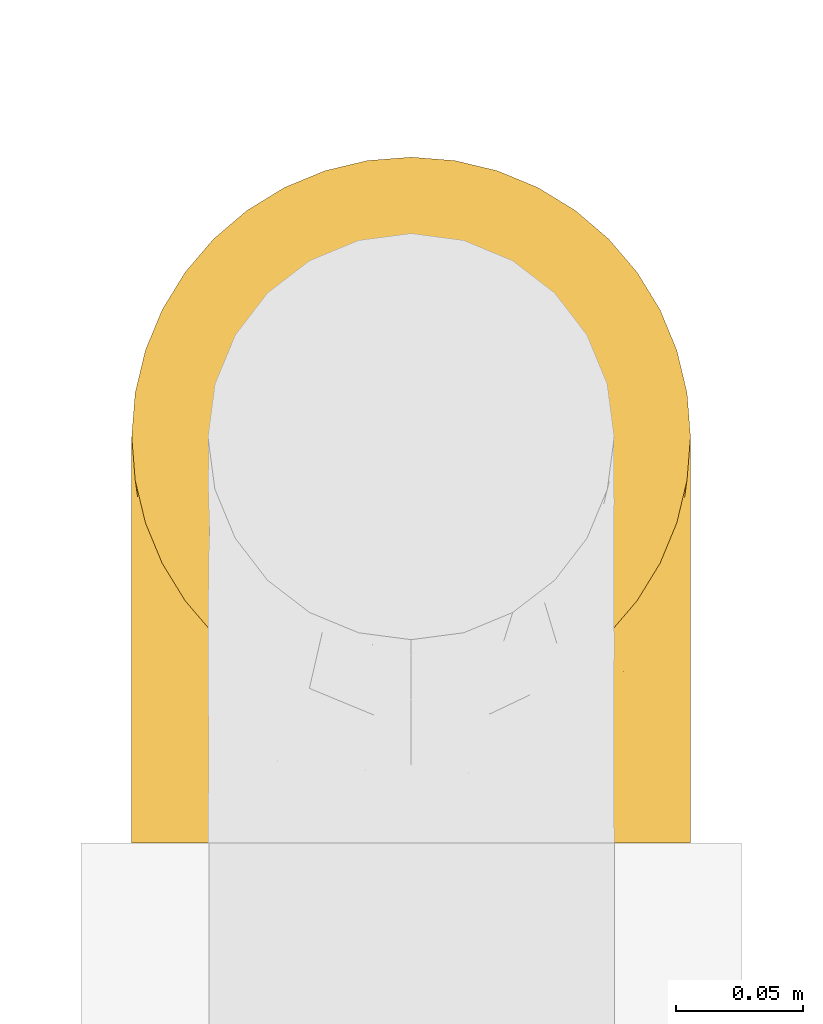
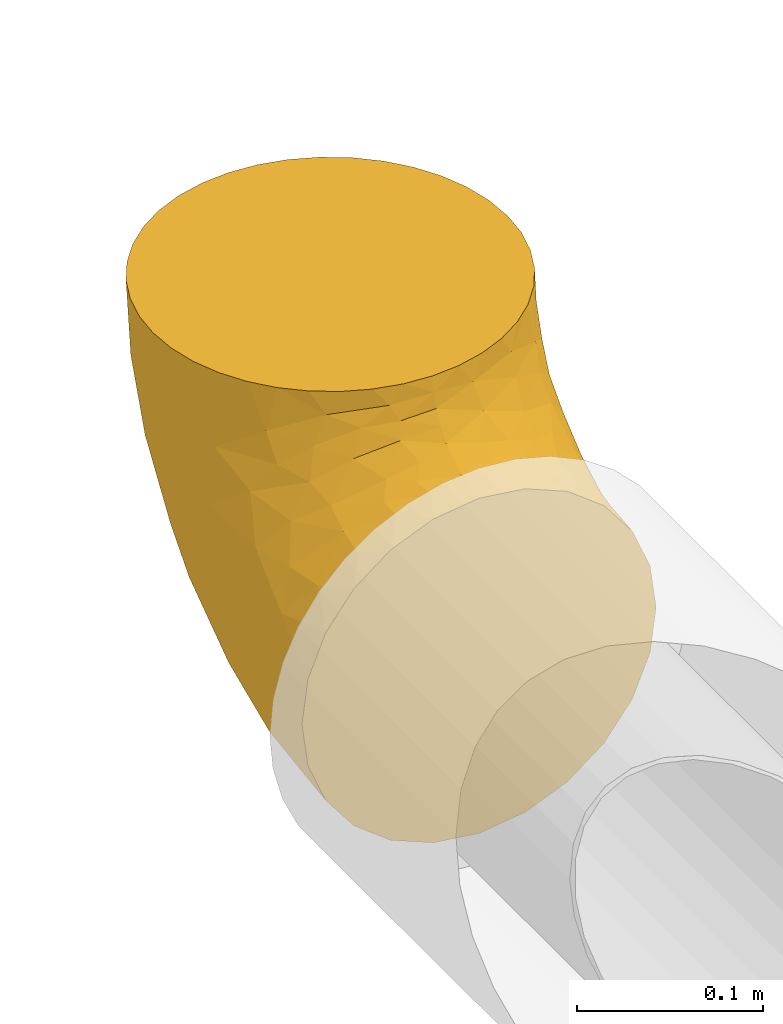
# One storey, part 6 of 14: 1 covering.
"""IFC2X3 building model written with IfcOpenShell, lengths in millimetres."""

import ifcopenshell
import ifcopenshell.guid

model = None  # the IFC model being written
_history = None  # IfcOwnerHistory: only IFC2X3 demands one
_inside = {}  # id of a spatial element -> (the spatial element, [elements in it])
_under = {}  # id of a project, library or spatial element -> (it, [spatial elements below it])
_declared = {}  # id of a project -> (the project, [libraries it declares])
_typed = {}  # id of a type object -> (the type object, [elements of that type])
_made_of = {}  # id of a material, layer set ... -> (it, [elements and type objects made of it])


def new_model(schema):
    """Start an empty IFC model of exactly this schema.

    Asked for "IFC4X3", IfcOpenShell would pick the latest addendum, in which some entities
    have other attributes; the version numbers below select the first issue.
    IFC2X3 requires an IfcOwnerHistory on every rooted entity: one is made here for all.
    """
    global model, _history
    if schema == "IFC4X3":
        model = ifcopenshell.file(schema_version=(4, 3, 0, 0))
    else:
        model = ifcopenshell.file(schema=schema)
    _inside.clear()
    _under.clear()
    _declared.clear()
    _typed.clear()
    _made_of.clear()
    _history = None
    if model.schema == "IFC2X3":
        org = make("IfcOrganization", Name="unknown")
        user = make(
            "IfcPersonAndOrganization",
            ThePerson=make("IfcPerson", FamilyName="unknown"),
            TheOrganization=org,
        )
        app = make(
            "IfcApplication",
            ApplicationDeveloper=org,
            Version="unknown",
            ApplicationFullName="unknown",
            ApplicationIdentifier="unknown",
        )
        _history = make(
            "IfcOwnerHistory",
            OwningUser=user,
            OwningApplication=app,
            ChangeAction="ADDED",
            CreationDate=0,
        )
    return model


def make(cls, **values):
    """One entity of the class cls with the attributes given. An attribute that is None is left unset."""
    return model.create_entity(
        cls, **{name: value for name, value in values.items() if value is not None}
    )


def entity(cls, *values):
    """Any entity or typed value of the class cls, its attributes in the order of the schema. None: left unset."""
    e = model.create_entity(cls)
    for i, value in enumerate(values):
        if value is not None:
            e[i] = value
    return e


def rooted(cls, **values):
    """An entity with a GlobalId (a new one), such as an element, a storey or a relation."""
    return make(cls, GlobalId=ifcopenshell.guid.new(), OwnerHistory=_history, **values)


def si_unit(unit_type, name, prefix=None):
    """IfcSIUnit, for example si_unit("LENGTHUNIT", "METRE", prefix="MILLI")."""
    return make("IfcSIUnit", UnitType=unit_type, Prefix=prefix, Name=name)


def converted_unit(unit_type, name, factor, base, dimensions=None, offset=None):
    """IfcConversionBasedUnit, such as the inch: factor (a typed value) times the base unit."""
    return make(
        "IfcConversionBasedUnit"
        if offset is None
        else "IfcConversionBasedUnitWithOffset",
        ConversionOffset=offset,
        Dimensions=None
        if dimensions is None
        else entity("IfcDimensionalExponents", *dimensions),
        UnitType=unit_type,
        Name=name,
        ConversionFactor=make(
            "IfcMeasureWithUnit", ValueComponent=factor, UnitComponent=base
        ),
    )


def derived_unit(unit_type, elements):
    """IfcDerivedUnit: a product of units, each with its exponent."""
    return make(
        "IfcDerivedUnit",
        Elements=[
            make("IfcDerivedUnitElement", Unit=unit, Exponent=power)
            for unit, power in elements
        ],
        UnitType=unit_type,
    )


def assignment(units):
    """IfcUnitAssignment: the units of a project."""
    return None if units is None else make("IfcUnitAssignment", Units=units)


def point(xyz):
    """IfcCartesianPoint."""
    return None if xyz is None else make("IfcCartesianPoint", Coordinates=xyz)


def direction(xyz):
    """IfcDirection."""
    return None if xyz is None else make("IfcDirection", DirectionRatios=xyz)


def frame(location, z_axis=None, x_axis=None):
    """IfcAxis2Placement3D, a coordinate frame: its origin and axes. An axis left out is left unset."""
    return make(
        "IfcAxis2Placement3D",
        Location=point(location),
        Axis=direction(z_axis),
        RefDirection=direction(x_axis),
    )


def origin_with_axes():
    """The frame at (0, 0, 0) with the z axis (0, 0, 1) and the x axis (1, 0, 0) written out."""
    return frame((0.0, 0.0, 0.0), z_axis=(0.0, 0.0, 1.0), x_axis=(1.0, 0.0, 0.0))


def place(relative_to, where):
    """IfcLocalPlacement: puts the frame where relative to a parent placement (None: the world)."""
    return make(
        "IfcLocalPlacement", PlacementRelTo=relative_to, RelativePlacement=where
    )


def context(
    kind, dimensions, precision=None, world=None, true_north=None, identifier=None
):
    """IfcGeometricRepresentationContext, for example the 3D "Model" context."""
    return make(
        "IfcGeometricRepresentationContext",
        ContextIdentifier=identifier,
        ContextType=kind,
        CoordinateSpaceDimension=dimensions,
        Precision=precision,
        WorldCoordinateSystem=world,
        TrueNorth=true_north,
    )


def subcontext(parent, identifier, kind, view, scale=None):
    """IfcGeometricRepresentationSubContext, for example "Body" below "Model"."""
    return make(
        "IfcGeometricRepresentationSubContext",
        ContextIdentifier=identifier,
        ContextType=kind,
        ParentContext=parent,
        TargetScale=scale,
        TargetView=view,
    )


def project(units=None, contexts=None):
    """IfcProject with its units and contexts."""
    return rooted(
        "IfcProject",
        Name="project",
        RepresentationContexts=contexts,
        UnitsInContext=assignment(units),
    )


def spatial(cls, under=None, at=None, **own):
    """A site, building, storey or space (cls), placed at a placement, below another one or the project."""
    s = rooted(cls, ObjectPlacement=at, **own)
    if under is not None:
        _under.setdefault(under.id(), (under, []))[1].append(s)
    return s


def faces_of(points, faces, orient=None, outer=None):
    """IfcFace entities. A face is a list of loops; a loop is a list of indices into points, from 0.

    orient and outer hold one flag for each loop. By default every Orientation is true, the
    first loop of a face is its IfcFaceOuterBound and the others are IfcFaceBound.
    """
    made = []
    for i, loops in enumerate(faces):
        bounds = []
        for j, loop in enumerate(loops):
            is_outer = j == 0 if outer is None else outer[i][j]
            bounds.append(
                make(
                    "IfcFaceOuterBound" if is_outer else "IfcFaceBound",
                    Bound=make("IfcPolyLoop", Polygon=[points[k] for k in loop]),
                    Orientation=True if orient is None else orient[i][j],
                )
            )
        made.append(make("IfcFace", Bounds=bounds))
    return made


def open_shell(faces, orient=None, outer=None):
    """The faces of one IfcOpenShell. surface_model builds it on its shared points."""
    return ("IfcOpenShell", faces, orient, outer)


def surface_model(cls, points, shells):
    """IfcFaceBasedSurfaceModel or IfcShellBasedSurfaceModel (cls): surfaces that need not close."""
    shared = [point(p) for p in points]
    made = [make(c, CfsFaces=faces_of(shared, fs, o, b)) for c, fs, o, b in shells]
    if cls == "IfcFaceBasedSurfaceModel":
        return make(cls, FbsmFaces=made)
    return make(cls, SbsmBoundary=made)


def shape(context_of_items, identifier, shape_type, items):
    """IfcShapeRepresentation: the items that make up one representation, for example the "Body"."""
    return make(
        "IfcShapeRepresentation",
        ContextOfItems=context_of_items,
        RepresentationIdentifier=identifier,
        RepresentationType=shape_type,
        Items=items,
    )


def source(mapping_origin, context_of_items, identifier, shape_type, items):
    """IfcRepresentationMap: a shape defined once, which mapped items show again and again."""
    return make(
        "IfcRepresentationMap",
        MappingOrigin=mapping_origin,
        MappedRepresentation=shape(context_of_items, identifier, shape_type, items),
    )


def transform(
    local_origin,
    x_axis=None,
    y_axis=None,
    z_axis=None,
    scale=None,
    scale2=None,
    scale3=None,
    uniform=True,
):
    """IfcCartesianTransformationOperator3D, or its non-uniform kind. x_axis, y_axis, z_axis: its Axis1, 2, 3."""
    if uniform:
        return make(
            "IfcCartesianTransformationOperator3D",
            Axis1=direction(x_axis),
            Axis2=direction(y_axis),
            LocalOrigin=point(local_origin),
            Scale=scale,
            Axis3=direction(z_axis),
        )
    return make(
        "IfcCartesianTransformationOperator3DnonUniform",
        Axis1=direction(x_axis),
        Axis2=direction(y_axis),
        LocalOrigin=point(local_origin),
        Scale=scale,
        Axis3=direction(z_axis),
        Scale2=scale2,
        Scale3=scale3,
    )


def mapped(mapping_source, mapping_target):
    """IfcMappedItem: shows the shape of a source again, moved by a transform."""
    return make(
        "IfcMappedItem", MappingSource=mapping_source, MappingTarget=mapping_target
    )


def made_of(thing, what):
    """Note that an element or type object is made of a material, layer set ...; save() writes the relation."""
    if what is not None:
        _made_of.setdefault(what.id(), (what, []))[1].append(thing)
    return thing


def element(
    cls,
    number,
    at=None,
    inside=None,
    cuts=None,
    type_object=None,
    material=None,
    context=None,
    identifier="Body",
    shape_type=None,
    held_by="IfcProductDefinitionShape",
    body=None,
    shapes=None,
    **own,
):
    """One element of the class cls, such as IfcWall. Its Tag is "e" and its number.

    at: its placement. inside: the storey or other place that contains it. cuts: it is an
    opening in that element (IfcRelVoidsElement). A single representation is given by context,
    identifier, shape_type and body (its items); several are given by shapes. held_by: the class
    of the entity that holds the representations. save() writes the other relations.
    """
    e = rooted(cls, Tag="e%d" % number, ObjectPlacement=at, **own)
    if body is not None:
        shapes = [shape(context, identifier, shape_type, body)]
    if shapes is not None:
        e.Representation = make(held_by, Representations=shapes)
    if inside is not None:
        _inside.setdefault(inside.id(), (inside, []))[1].append(e)
    if cuts is not None:
        rooted(
            "IfcRelVoidsElement", RelatingBuildingElement=cuts, RelatedOpeningElement=e
        )
    if type_object is not None:
        _typed.setdefault(type_object.id(), (type_object, []))[1].append(e)
    return made_of(e, material)


def aggregate(whole, parts):
    """IfcRelAggregates: a whole, such as a stair, and the parts it consists of."""
    return rooted("IfcRelAggregates", RelatingObject=whole, RelatedObjects=parts)


def save(model, path):
    """Write the relations noted so far, then the file.

    IfcRelAggregates (storeys below a building ...), IfcRelContainedInSpatialStructure (elements
    in a storey), IfcRelDefinesByType, IfcRelAssociatesMaterial and IfcRelDeclares: one each for
    every whole, place, type object, material and project.
    """
    for whole, parts in _under.values():
        aggregate(whole, parts)
    for where, things in _inside.values():
        rooted(
            "IfcRelContainedInSpatialStructure",
            RelatedElements=things,
            RelatingStructure=where,
        )
    for kind, things in _typed.values():
        rooted("IfcRelDefinesByType", RelatedObjects=things, RelatingType=kind)
    for what, things in _made_of.values():
        rooted("IfcRelAssociatesMaterial", RelatedObjects=things, RelatingMaterial=what)
    for by, libraries in _declared.values():
        rooted("IfcRelDeclares", RelatingContext=by, RelatedDefinitions=libraries)
    model.write(path)


model = new_model("IFC2X3")

# Units and contexts
model_context = context("Model", 3, precision=0.01, world=frame((0.0, 4.29681676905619e-09, 0.0)), true_north=direction((4.01073788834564e-13, 1.0)))
plan_context = context("Plan", 3, precision=0.01, world=frame((0.0, 4.29681676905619e-09, 0.0)), true_north=direction((4.01073788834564e-13, 1.0)))
body_context = subcontext(model_context, "Body", "Model", "MODEL_VIEW")
ifc_project = project(units=[converted_unit("PLANEANGLEUNIT", "DEGREE", entity("IfcPositiveLengthMeasure", 0.0174532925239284), si_unit("PLANEANGLEUNIT", "RADIAN"), dimensions=[0, 0, 0, 0, 0, 0, 0]), si_unit("AREAUNIT", "SQUARE_METRE"), si_unit("LENGTHUNIT", "METRE", prefix="MILLI"), si_unit("MASSUNIT", "GRAM", prefix="KILO"), si_unit("POWERUNIT", "WATT"), si_unit("PRESSUREUNIT", "PASCAL", prefix="KILO"), si_unit("FORCEUNIT", "NEWTON", prefix="KILO"), si_unit("ELECTRICVOLTAGEUNIT", "VOLT"), si_unit("ELECTRICCURRENTUNIT", "AMPERE"), si_unit("THERMODYNAMICTEMPERATUREUNIT", "DEGREE_CELSIUS"), si_unit("TIMEUNIT", "SECOND"), si_unit("VOLUMEUNIT", "CUBIC_METRE"), derived_unit("LINEARVELOCITYUNIT", [(si_unit("LENGTHUNIT", "METRE"), 1), (si_unit("TIMEUNIT", "SECOND"), -1)]), derived_unit("VOLUMETRICFLOWRATEUNIT", [(si_unit("VOLUMEUNIT", "CUBIC_METRE"), 1), (si_unit("TIMEUNIT", "SECOND"), -1)]), derived_unit("THERMALTRANSMITTANCEUNIT", [(si_unit("POWERUNIT", "WATT"), 1), (si_unit("THERMODYNAMICTEMPERATUREUNIT", "KELVIN"), -1), (si_unit("AREAUNIT", "SQUARE_METRE"), -1)]), derived_unit("SOUNDPRESSUREUNIT", [(si_unit("PRESSUREUNIT", "PASCAL"), 1)])], contexts=[model_context, plan_context])

# Site, building, storey
site_placement = place(None, frame((0.0, -4.29681676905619e-09, 0.0), z_axis=(0.0, 0.0, 1.0), x_axis=(1.0, 0.0, 0.0)))
site = spatial("IfcSite", under=ifc_project, at=site_placement, CompositionType="ELEMENT")
building_placement = place(site_placement, frame((0.0, 4.29681676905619e-09, 0.0), z_axis=(0.0, 0.0, 1.0), x_axis=(1.0, 0.0, 0.0)))
building = spatial("IfcBuilding", under=site, at=building_placement, Name="mc-building", CompositionType="ELEMENT")
storey_placement = place(building_placement, frame((0.0, 0.0, 205200.0), z_axis=(0.0, 0.0, 1.0), x_axis=(1.0, 0.0, 0.0)))
storey = spatial("IfcBuildingStorey", under=building, at=storey_placement, Name="Nivå D + 1,2 m", CompositionType="ELEMENT", Elevation=205200.0)

# Covering
shared_shape = source(origin_with_axes(), body_context, "Body", "SurfaceModel", [
    surface_model("IfcShellBasedSurfaceModel", [(-33.9894, 160.0, 104.61702), (0.0, 160.0, 110.0), (49.94426, 160.0, 98.00802), (17.21089, 160.0, 108.64523), (33.99667, 160.0, 104.61465), (64.66127, 160.0, 88.98832), (88.99461, 160.0, 64.6526), (104.61702, 160.0, 33.9894), (98.01236, 160.0, 49.93573), (77.78567, 160.0, 77.77782), (-98.01236, 160.0, -49.93573), (-104.61465, 160.0, 33.99667), (-64.6526, 160.0, 88.99461), (-49.93573, 160.0, 98.01236), (-77.77782, 160.0, 77.78567), (-88.98832, 160.0, 64.66127), (-17.206, 160.0, 108.646), (-98.00802, 160.0, 49.94426), (-108.64523, 160.0, 17.21089), (-110.0, 160.0, 0.0), (108.646, 160.0, 17.206), (110.0, 160.0, 0.0), (108.64523, 160.0, -17.21089), (104.61465, 160.0, -33.99667), (98.00802, 160.0, -49.94426), (88.98832, 160.0, -64.66127), (0.0, 160.0, -110.0), (64.6526, 160.0, -88.99461), (49.93573, 160.0, -98.01236), (33.9894, 160.0, -104.61702), (17.206, 160.0, -108.646), (77.77782, 160.0, -77.78567), (-77.78567, 160.0, -77.77782), (-88.99461, 160.0, -64.6526), (-108.646, 160.0, -17.206), (-104.61702, 160.0, -33.9894), (-17.21089, 160.0, -108.64523), (-49.94426, 160.0, -98.00802), (-64.66127, 160.0, -88.98832), (-33.99667, 160.0, -104.61465), (-160.0, 110.0, 0.0), (-160.0, 106.25184, -28.47009), (-160.0, 95.26279, -55.0), (-160.0, 77.78174, -77.78174), (-160.0, 55.0, -95.26279), (-160.0, 77.78174, 77.78174), (-160.0, 28.47009, -106.25184), (-160.0, 95.26279, 55.0), (-160.0, 106.25184, 28.47009), (-160.0, 28.47009, 106.25184), (-160.0, 55.0, 95.26279), (-160.0, 0.0, 110.0), (-160.0, 0.0, -110.0), (-160.0, -28.47009, -106.25184), (-160.0, -55.0, -95.26279), (-160.0, -77.78174, -77.78174), (-160.0, -95.26279, -55.0), (-160.0, -106.25184, -28.47009), (-160.0, -106.25184, 28.47009), (-160.0, -110.0, 0.0), (-160.0, -28.47009, 106.25184), (-160.0, -77.78174, 77.78174), (-160.0, -55.0, 95.26279), (-160.0, -95.26279, 55.0), (-85.68687, -95.30391, 29.75404), (-107.32562, -104.81203, 0.0), (-56.67547, -89.44747, 0.0), (99.10348, 89.95655, 18.67021), (96.01787, 99.86927, 38.65476), (73.34906, 49.71295, 49.76562), (83.66851, 50.86657, 25.55041), (45.50852, -7.80032, 31.76928), (1.47352, -50.40716, 32.05421), (30.91883, -30.91883, 0.0), (-39.23288, -77.31977, 28.36245), (-41.90766, -69.57016, 49.63847), (17.73649, 31.69863, 92.707), (36.59789, 31.79483, 80.73964), (48.68341, 71.13853, 87.38267), (-6.91741, 36.10009, 103.61185), (-22.51917, -2.64529, 96.40859), (-9.99604, -64.49679, 0.0), (57.74985, 116.75141, 90.86032), (24.04885, 94.34704, 104.14544), (64.49679, 9.99604, 0.0), (61.63696, 59.59554, 71.81916), (-124.01206, -67.32005, 84.72792), (-113.37185, -23.98668, 105.88562), (-77.01704, -59.16284, 81.07109), (-102.13662, -83.50689, 62.83461), (-5.45187, 118.58896, 110.0), (-52.92885, -34.28329, 90.97572), (-100.59834, -45.21249, 96.03689), (-46.86291, 46.86291, 110.0), (-80.0, 21.43593, 110.0), (-42.4822, 10.95354, 105.88562), (6.91445, -6.33041, 79.86602), (-68.45715, -17.88824, 102.44575), (-83.80874, -2.25944, 108.3012), (-118.58896, 5.45187, 110.0), (89.44747, 56.67547, 0.0), (104.81203, 107.32562, 0.0), (12.54248, -27.52579, 55.74791), (-29.45251, -40.8045, 76.01409), (79.70787, 99.41478, 66.99395), (-21.43593, 80.0, 110.0), (-54.94937, -64.00959, 66.76825), (43.73032, 18.0041, 65.55475), (-121.67092, 28.49885, 107.56286), (-79.92967, 55.65031, 106.25184), (-114.87979, 51.07014, 101.62675), (-139.52605, 43.88642, 101.62675), (-143.80239, 103.91905, 42.09517), (-99.51112, 133.0701, 57.47995), (-108.73155, 146.40529, 25.68297), (-115.17102, 130.1173, 28.94263), (-126.31957, 114.37473, 37.83118), (-110.54043, 117.71285, 55.57698), (-98.38819, 39.01309, 107.29851), (-98.02943, 65.88145, 99.3056), (-95.13445, 146.71155, 57.47996), (-52.88015, 77.80405, 107.12646), (-144.4376, 110.46716, 20.46268), (-149.46881, 112.09478, 0.0), (-75.82932, 132.45032, 83.64797), (-145.22361, 88.78571, 66.96375), (-135.92046, 70.13389, 87.26886), (-109.91384, 80.07857, 88.23829), (-128.53025, 94.42965, 66.96375), (-32.81704, 102.10421, 108.11825), (-29.04832, 130.09399, 106.9612), (-51.54502, 113.74267, 101.62794), (-113.80603, 140.86583, 0.0), (-79.27717, 83.48363, 98.59497), (-49.18142, 137.17249, 99.52203), (-134.1388, 107.8658, 41.66474), (-134.93375, 113.88519, 23.25876), (-85.07583, 117.93622, 81.31911), (-72.78482, 105.52937, 93.97515), (-119.22534, 132.75524, 0.0), (-92.65257, 102.48469, 83.64797), (-111.90301, 150.43291, 0.0), (-127.32604, 120.18666, 18.12944), (-124.64466, 124.64466, 0.0), (-111.61265, 99.37975, 72.8305), (-140.86583, 113.80603, 0.0), (-132.75524, 119.22534, 0.0), (-122.56289, 105.9058, 56.77684), (-137.93517, 69.61811, -87.26886), (-123.30851, 47.94964, -101.62675), (-32.82556, 102.09974, -108.11715), (-5.45187, 118.58896, -110.0), (-21.43593, 80.0, -110.0), (-85.35922, 115.59964, -82.15131), (-51.55499, 113.73955, -101.62465), (-77.4161, 97.60501, -94.38373), (-134.80473, 113.73136, -24.15047), (-144.43386, 110.45524, -20.52855), (-133.5146, 107.10661, -43.93256), (-144.28966, 103.78059, -42.09518), (-29.05523, 130.09127, -106.95973), (-130.10043, 93.69891, -66.96376), (-146.14937, 88.59987, -66.96376), (-95.33748, 145.78101, -57.47131), (-129.5941, 25.85619, -107.68402), (-95.63569, 128.27609, -65.67573), (-101.93941, 110.41573, -71.4354), (-110.39952, 123.21917, -49.46612), (-55.07255, 79.48634, -106.4443), (-112.20006, 139.21722, -21.50469), (-108.19882, 148.60914, -25.67684), (-105.89687, 138.0877, -42.09231), (-115.61207, 70.41435, -92.18203), (-102.27049, 34.81645, -107.74757), (-49.19051, 137.17097, -99.51798), (-46.86291, 46.86291, -110.0), (-80.0, 21.43593, -110.0), (-76.20288, 50.79347, -107.70589), (-75.83799, 132.45051, -83.64089), (-125.80946, 114.76656, -37.8076), (-116.77739, 130.00251, -23.8298), (-103.75563, 90.39139, -84.43102), (-91.57254, 70.82359, -99.16985), (-118.58896, 5.45187, -110.0), (-116.1757, 101.98837, -66.9288), (-127.34431, 120.20892, -17.95622), (-113.37185, -23.98668, -105.88562), (-83.80874, -2.25944, -108.3012), (-68.45715, -17.88824, -102.44575), (-43.57237, 10.10041, -105.88562), (-29.40247, -40.87198, -75.92628), (-77.02282, -59.16448, -81.07156), (-50.36598, -32.62123, -91.10978), (-100.59802, -45.21186, -96.03717), (26.0824, 106.97135, -104.7777), (-10.3512, 39.52188, -105.2063), (-124.01558, -67.32029, -84.72819), (-102.1383, -83.50719, -62.83474), (65.87031, 86.93674, -78.16814), (73.33667, 49.69468, -49.77228), (43.79402, 18.21145, -65.64386), (-85.68723, -95.30355, -29.75563), (-41.90895, -69.56881, -49.64201), (-14.2869, 3.3309, -95.85751), (45.50913, -7.80094, -31.76641), (12.74401, -27.31828, -55.77526), (1.52543, -50.32454, -32.1654), (-39.1605, -77.29294, -28.32899), (84.21148, 98.66551, -60.60953), (33.10079, 67.93929, -95.87649), (46.1696, 113.07301, -97.22984), (-55.08839, -64.08432, -66.75688), (36.20125, 36.25238, -83.19158), (96.01289, 99.8596, -38.66178), (83.66064, 50.85081, -25.55355), (99.10095, 89.94912, -18.67311), (6.90992, -6.32545, -79.87238)], [open_shell([[[0, 1, 2]], [[3, 4, 2]], [[3, 2, 1]], [[2, 5, 6]], [[2, 7, 0]], [[6, 8, 7]], [[2, 6, 7]], [[5, 9, 6]], [[10, 0, 7]], [[11, 12, 0]], [[0, 12, 13]], [[14, 12, 15]], [[16, 1, 0]], [[17, 15, 11]], [[11, 10, 18]], [[11, 15, 12]], [[10, 19, 18]], [[10, 11, 0]], [[10, 7, 20]], [[21, 22, 23]], [[23, 24, 25]], [[20, 23, 26]], [[27, 23, 25]], [[28, 23, 27]], [[28, 29, 30]], [[28, 26, 23]], [[27, 25, 31]], [[30, 26, 28]], [[32, 33, 10]], [[34, 10, 35]], [[32, 10, 26]], [[34, 19, 10]], [[26, 36, 37]], [[37, 38, 32]], [[37, 36, 39]], [[37, 32, 26]], [[26, 10, 20]], [[21, 23, 20]], [[40, 41, 42]], [[40, 42, 43]], [[40, 44, 45]], [[44, 40, 43]], [[45, 44, 46]], [[40, 47, 48]], [[40, 45, 47]], [[45, 49, 50]], [[49, 45, 51]], [[46, 51, 45]], [[46, 52, 51]], [[52, 53, 54]], [[54, 55, 51]], [[55, 56, 57]], [[58, 51, 55]], [[57, 59, 55]], [[60, 61, 62]], [[61, 60, 58]], [[61, 58, 63]], [[51, 58, 60]], [[55, 59, 58]], [[54, 51, 52]], [[64, 65, 66]], [[65, 58, 59]], [[67, 20, 7]], [[68, 69, 70]], [[71, 72, 73]], [[64, 63, 58]], [[74, 72, 75]], [[76, 77, 78]], [[79, 80, 76]], [[72, 74, 81]], [[78, 82, 83]], [[71, 73, 84]], [[78, 77, 85]], [[62, 61, 86]], [[83, 79, 76]], [[60, 87, 51]], [[88, 86, 89]], [[90, 83, 3]], [[88, 91, 92]], [[93, 94, 95]], [[96, 80, 91]], [[87, 97, 98]], [[79, 95, 80]], [[98, 94, 99]], [[94, 98, 95]], [[82, 4, 83]], [[2, 82, 5]], [[82, 9, 5]], [[63, 89, 61]], [[70, 84, 100]], [[7, 8, 68]], [[67, 68, 70]], [[64, 89, 63]], [[68, 67, 7]], [[99, 51, 87]], [[8, 6, 68]], [[95, 98, 97]], [[101, 21, 20]], [[102, 96, 103]], [[6, 104, 68]], [[91, 103, 96]], [[83, 90, 105]], [[104, 6, 9]], [[1, 90, 3]], [[71, 102, 72]], [[83, 105, 79]], [[82, 2, 4]], [[4, 3, 83]], [[64, 75, 89]], [[79, 105, 93]], [[58, 65, 64]], [[68, 104, 69]], [[82, 104, 9]], [[92, 97, 87]], [[82, 78, 85]], [[101, 67, 100]], [[106, 89, 75]], [[102, 107, 96]], [[87, 98, 99]], [[92, 60, 62]], [[60, 92, 87]], [[86, 92, 62]], [[80, 95, 97]], [[93, 95, 79]], [[97, 92, 91]], [[107, 77, 96]], [[96, 76, 80]], [[83, 76, 78]], [[69, 71, 70]], [[84, 70, 71]], [[91, 88, 103]], [[97, 91, 80]], [[88, 106, 103]], [[75, 72, 102]], [[102, 103, 106]], [[107, 71, 69]], [[74, 75, 64]], [[73, 72, 81]], [[71, 107, 102]], [[69, 104, 85]], [[89, 106, 88]], [[102, 106, 75]], [[64, 66, 74]], [[81, 74, 66]], [[100, 67, 70]], [[20, 67, 101]], [[96, 77, 76]], [[85, 77, 107]], [[69, 85, 107]], [[85, 104, 82]], [[89, 86, 61]], [[92, 86, 88]], [[99, 108, 51]], [[94, 93, 109]], [[108, 110, 111]], [[47, 112, 48]], [[113, 114, 115]], [[115, 116, 117]], [[108, 118, 110]], [[118, 109, 119]], [[120, 17, 11]], [[109, 93, 121]], [[122, 48, 112]], [[48, 122, 123]], [[124, 120, 113]], [[125, 112, 47]], [[126, 127, 128]], [[50, 126, 45]], [[129, 130, 131]], [[45, 125, 47]], [[49, 111, 50]], [[50, 111, 126]], [[120, 14, 15]], [[115, 114, 132]], [[130, 129, 90]], [[133, 127, 119]], [[0, 134, 130]], [[13, 134, 0]], [[120, 124, 14]], [[12, 14, 124]], [[134, 12, 124]], [[135, 136, 122]], [[1, 16, 90]], [[133, 109, 121]], [[135, 116, 136]], [[131, 130, 134]], [[117, 113, 115]], [[120, 15, 17]], [[120, 11, 114]], [[137, 138, 124]], [[115, 132, 139]], [[138, 137, 140]], [[18, 141, 114]], [[136, 116, 142]], [[90, 16, 130]], [[114, 11, 18]], [[114, 113, 120]], [[143, 115, 139]], [[115, 143, 142]], [[16, 0, 130]], [[93, 105, 121]], [[128, 127, 144]], [[127, 126, 110]], [[125, 126, 128]], [[119, 110, 118]], [[144, 127, 140]], [[129, 121, 105]], [[133, 138, 140]], [[138, 121, 131]], [[127, 133, 140]], [[126, 125, 45]], [[112, 125, 128]], [[123, 122, 145]], [[123, 40, 48]], [[142, 143, 146]], [[146, 145, 136]], [[122, 136, 145]], [[115, 142, 116]], [[146, 136, 142]], [[135, 122, 112]], [[112, 128, 135]], [[147, 135, 128]], [[121, 129, 131]], [[90, 129, 105]], [[144, 147, 128]], [[137, 117, 140]], [[12, 134, 13]], [[124, 131, 134]], [[121, 138, 133]], [[124, 138, 131]], [[124, 113, 137]], [[117, 137, 113]], [[49, 51, 108]], [[126, 111, 110]], [[49, 108, 111]], [[118, 99, 94]], [[99, 118, 108]], [[94, 109, 118]], [[141, 18, 19]], [[141, 132, 114]], [[133, 119, 109]], [[127, 110, 119]], [[140, 117, 144]], [[147, 117, 116]], [[117, 147, 144]], [[135, 147, 116]], [[44, 148, 149]], [[150, 151, 152]], [[153, 154, 155]], [[145, 146, 156]], [[157, 158, 159]], [[123, 145, 157]], [[36, 151, 160]], [[159, 161, 162]], [[32, 163, 33]], [[162, 43, 42]], [[52, 46, 164]], [[157, 156, 158]], [[165, 166, 167]], [[46, 44, 149]], [[163, 10, 33]], [[154, 168, 155]], [[169, 170, 171]], [[165, 171, 163]], [[149, 148, 172]], [[149, 173, 164]], [[154, 150, 168]], [[42, 41, 159]], [[19, 34, 141]], [[166, 153, 155]], [[163, 35, 10]], [[34, 170, 141]], [[37, 174, 38]], [[170, 35, 163]], [[168, 152, 175]], [[176, 177, 175]], [[178, 32, 38]], [[32, 178, 163]], [[41, 123, 157]], [[171, 170, 163]], [[174, 39, 160]], [[39, 174, 37]], [[179, 180, 167]], [[39, 36, 160]], [[160, 154, 174]], [[172, 181, 182]], [[26, 151, 36]], [[177, 173, 182]], [[132, 141, 169]], [[154, 160, 150]], [[164, 173, 183]], [[44, 43, 148]], [[181, 184, 166]], [[34, 35, 170]], [[163, 178, 165]], [[185, 180, 179]], [[177, 168, 175]], [[155, 168, 182]], [[162, 148, 43]], [[149, 172, 182]], [[181, 155, 182]], [[166, 165, 153]], [[173, 177, 176]], [[168, 177, 182]], [[183, 173, 176]], [[182, 173, 149]], [[52, 164, 183]], [[46, 149, 164]], [[41, 40, 123]], [[185, 156, 146]], [[41, 157, 159]], [[180, 185, 143]], [[143, 185, 146]], [[156, 185, 179]], [[139, 132, 169]], [[165, 167, 171]], [[156, 179, 158]], [[156, 157, 145]], [[184, 158, 179]], [[161, 159, 158]], [[167, 166, 184]], [[171, 167, 180]], [[159, 162, 42]], [[148, 162, 161]], [[151, 150, 160]], [[168, 150, 152]], [[154, 178, 174]], [[38, 174, 178]], [[171, 180, 169]], [[169, 180, 139]], [[148, 161, 172]], [[161, 184, 181]], [[161, 181, 172]], [[155, 181, 166]], [[158, 184, 161]], [[167, 184, 179]], [[165, 178, 153]], [[154, 153, 178]], [[169, 141, 170]], [[180, 143, 139]], [[52, 183, 186]], [[186, 187, 188]], [[176, 175, 189]], [[186, 183, 187]], [[176, 187, 183]], [[190, 191, 192]], [[193, 53, 186]], [[152, 194, 195]], [[55, 196, 197]], [[175, 152, 195]], [[198, 199, 200]], [[194, 152, 151]], [[197, 201, 56]], [[201, 197, 202]], [[65, 59, 57]], [[52, 186, 53]], [[55, 54, 196]], [[192, 193, 188]], [[189, 203, 188]], [[200, 204, 205]], [[66, 65, 201]], [[202, 206, 207]], [[175, 195, 189]], [[201, 202, 207]], [[197, 56, 55]], [[208, 31, 25]], [[209, 194, 210]], [[211, 197, 191]], [[151, 26, 30]], [[200, 212, 198]], [[65, 57, 201]], [[210, 29, 28]], [[27, 31, 198]], [[188, 193, 186]], [[208, 213, 199]], [[195, 194, 209]], [[151, 30, 194]], [[210, 27, 198]], [[193, 192, 191]], [[213, 214, 199]], [[215, 214, 213]], [[204, 84, 73]], [[214, 84, 204]], [[209, 210, 198]], [[23, 213, 24]], [[213, 208, 24]], [[215, 22, 101]], [[215, 100, 214]], [[21, 101, 22]], [[189, 188, 187]], [[215, 23, 22]], [[198, 208, 199]], [[206, 73, 81]], [[202, 205, 206]], [[211, 205, 202]], [[29, 194, 30]], [[56, 201, 57]], [[209, 212, 203]], [[196, 193, 191]], [[53, 193, 54]], [[189, 187, 176]], [[203, 189, 195]], [[209, 203, 195]], [[190, 192, 216]], [[188, 203, 192]], [[216, 192, 203]], [[205, 190, 216]], [[211, 191, 190]], [[200, 205, 216]], [[205, 204, 206]], [[84, 214, 100]], [[204, 199, 214]], [[73, 206, 204]], [[81, 66, 207]], [[200, 216, 212]], [[204, 200, 199]], [[203, 212, 216]], [[198, 212, 209]], [[31, 208, 198]], [[24, 208, 25]], [[29, 210, 194]], [[210, 28, 27]], [[205, 211, 190]], [[197, 211, 202]], [[81, 207, 206]], [[66, 201, 207]], [[215, 213, 23]], [[100, 215, 101]], [[193, 196, 54]], [[197, 196, 191]]])]),
])
covering_placement = place(storey_placement, frame((341336.70568, 465956.0, 4052.5), z_axis=(1.0, 0.0, 0.0), x_axis=(0.0, 1.0, 0.0)))
element("IfcCovering", 1, at=covering_placement, inside=storey, Name="B-EI60", PredefinedType="INSULATION", context=body_context, shape_type="MappedRepresentation", body=[
    mapped(shared_shape, transform((0.0, 0.0, 0.0), scale=1.0)),
])

save(model, "model.ifc")
